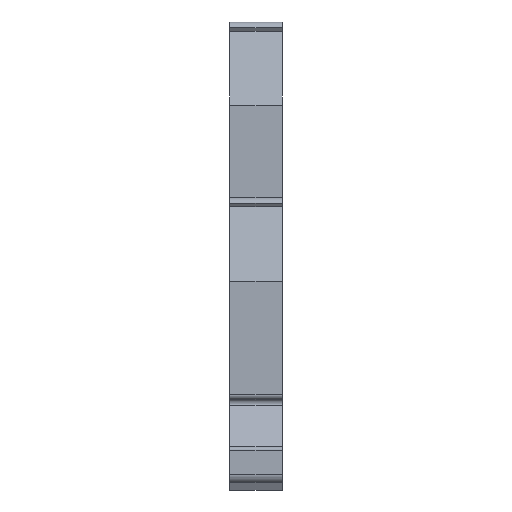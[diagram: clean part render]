
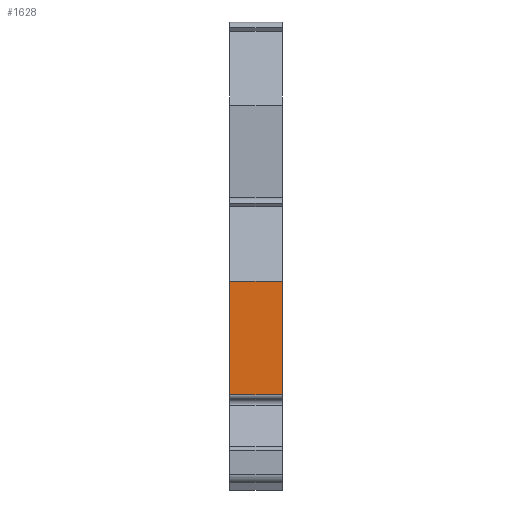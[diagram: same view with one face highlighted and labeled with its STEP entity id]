
A CAD part, front view. The second image highlights one B-rep face of the part: STEP entity #1628.
In plain terms, the highlighted planar face has unit normal (0, -1, 0).
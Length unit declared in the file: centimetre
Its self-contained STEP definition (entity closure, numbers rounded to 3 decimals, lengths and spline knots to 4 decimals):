
#53=PLANE('',#2429);
#144=FACE_OUTER_BOUND('',#250,.T.);
#250=EDGE_LOOP('',(#1138,#1139,#1140,#1141));
#502=VERTEX_POINT('',#3554);
#503=VERTEX_POINT('',#3556);
#504=VERTEX_POINT('',#3560);
#505=VERTEX_POINT('',#3562);
#767=EDGE_CURVE('',#503,#502,#1906,.T.);
#769=EDGE_CURVE('',#502,#504,#1907,.T.);
#770=EDGE_CURVE('',#505,#504,#1908,.T.);
#771=EDGE_CURVE('',#503,#505,#1909,.T.);
#1138=ORIENTED_EDGE('',*,*,#769,.T.);
#1139=ORIENTED_EDGE('',*,*,#770,.F.);
#1140=ORIENTED_EDGE('',*,*,#771,.F.);
#1141=ORIENTED_EDGE('',*,*,#767,.T.);
#1628=ADVANCED_FACE('',(#144),#53,.T.);
#1906=LINE('',#3557,#2176);
#1907=LINE('',#3561,#2177);
#1908=LINE('',#3563,#2178);
#1909=LINE('',#3564,#2179);
#2176=VECTOR('',#2857,25.4);
#2177=VECTOR('',#2862,25.4);
#2178=VECTOR('',#2863,25.4);
#2179=VECTOR('',#2864,25.4);
#2429=AXIS2_PLACEMENT_3D('',#3559,#2860,#2861);
#2857=DIRECTION('',(1.,0.,0.));
#2860=DIRECTION('center_axis',(0.,-1.,0.));
#2861=DIRECTION('ref_axis',(1.,0.,0.));
#2862=DIRECTION('',(0.,0.,1.));
#2863=DIRECTION('',(1.,0.,0.));
#2864=DIRECTION('',(0.,0.,1.));
#3554=CARTESIAN_POINT('',(6.,-48.35,5.85));
#3556=CARTESIAN_POINT('',(0.,-48.35,5.85));
#3557=CARTESIAN_POINT('',(0.,-48.35,5.85));
#3559=CARTESIAN_POINT('Origin',(0.,-48.35,5.85));
#3560=CARTESIAN_POINT('',(6.,-48.35,18.9338));
#3561=CARTESIAN_POINT('',(6.,-48.35,5.85));
#3562=CARTESIAN_POINT('',(0.,-48.35,18.9338));
#3563=CARTESIAN_POINT('',(0.,-48.35,18.9338));
#3564=CARTESIAN_POINT('',(0.,-48.35,5.85));
